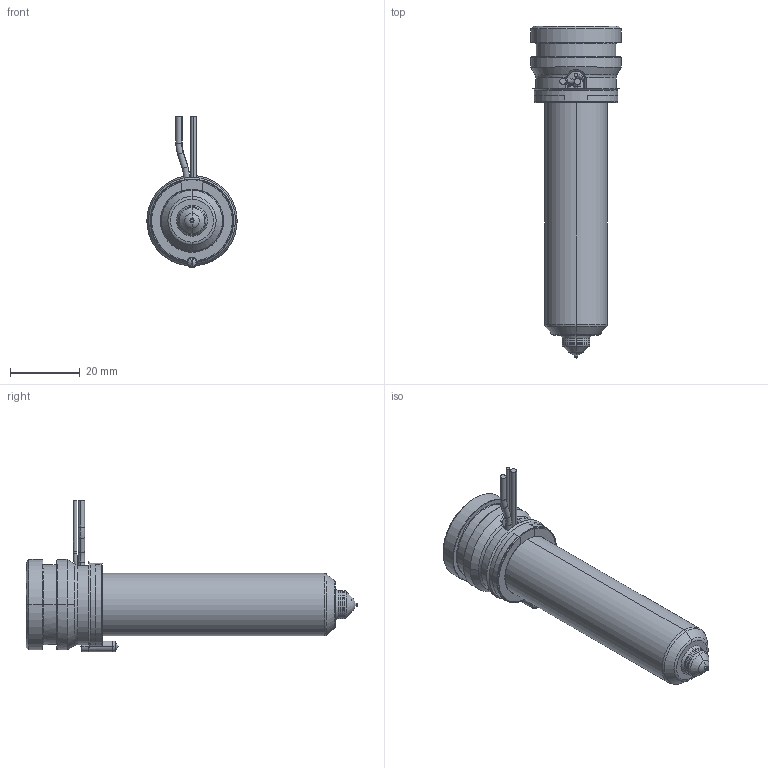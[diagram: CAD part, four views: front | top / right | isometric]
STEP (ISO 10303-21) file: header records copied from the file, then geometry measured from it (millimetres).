
FILE_DESCRIPTION((''),'2;1');
FILE_NAME('MPN-08-24-VX8-076-A','2026-02-05T11:59:40',('UPTIO'),('Thermoplay S.p.A.'),'CREO PARAMETRIC BY PTC INC, 2023494','CREO PARAMETRIC BY PTC INC, 2023494','');
FILE_SCHEMA(('CONFIG_CONTROL_DESIGN','SHAPE_APPEARANCE_LAYERS_GROUPS'));
Length unit declared in the file: millimetre
Products named in the file (1): MPN-08-24-VX8-076-A
Bounding box: 26 x 95.5 x 43.5 mm (x, y, z)
Volume: 19267.2 mm3; surface area: 23872.7 mm2
Topology: 2 solids, 3 shells, 545 faces, 1438 edges, 891 vertices
Faces by surface type: cylinder 180, plane 143, bspline 82, cone 62, torus 62, sphere 10, extrusion 6
Entity records: 29198 total; most frequent: CARTESIAN_POINT 12959, ORIENTED_EDGE 2860, DIRECTION 2578, EDGE_CURVE 1430, AXIS2_PLACEMENT_3D 1007, VERTEX_POINT 891, EDGE_LOOP 573, VECTOR 564
